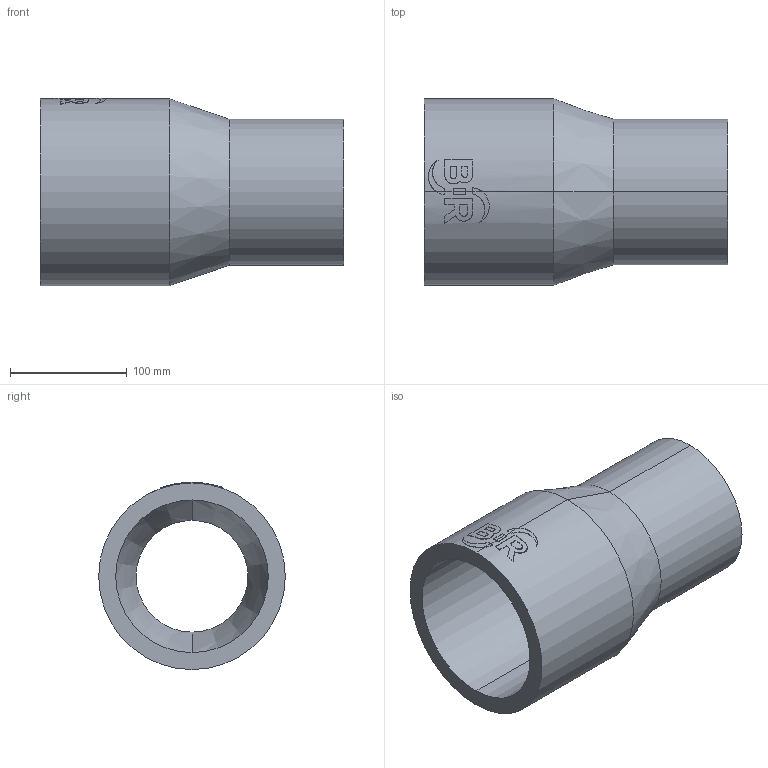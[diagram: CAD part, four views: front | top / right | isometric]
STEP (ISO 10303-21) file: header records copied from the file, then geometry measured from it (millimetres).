
FILE_DESCRIPTION (( 'STEP AP214' ), '1' );
FILE_NAME ('2323171515.STEP', '2018-07-20T10:01:38', ( '' ), ( '' ), 'SwSTEP 2.0', 'SolidWorks 2017', '' );
FILE_SCHEMA (( 'AUTOMOTIVE_DESIGN' ));
Length unit declared in the file: millimetre
Products named in the file (1): 2323171515
Bounding box: 260 x 160 x 160.46 mm (x, y, z)
Volume: 1551341.8 mm3; surface area: 224398.8 mm2
Topology: 1 solids, 1 shells, 63 faces, 160 edges, 104 vertices
Faces by surface type: cylinder 31, plane 28, cone 4
Entity records: 3249 total; most frequent: CARTESIAN_POINT 1040, ORIENTED_EDGE 320, DIRECTION 296, EDGE_CURVE 160, AXIS2_PLACEMENT_3D 112, VERTEX_POINT 104, LINE 72, VECTOR 72
